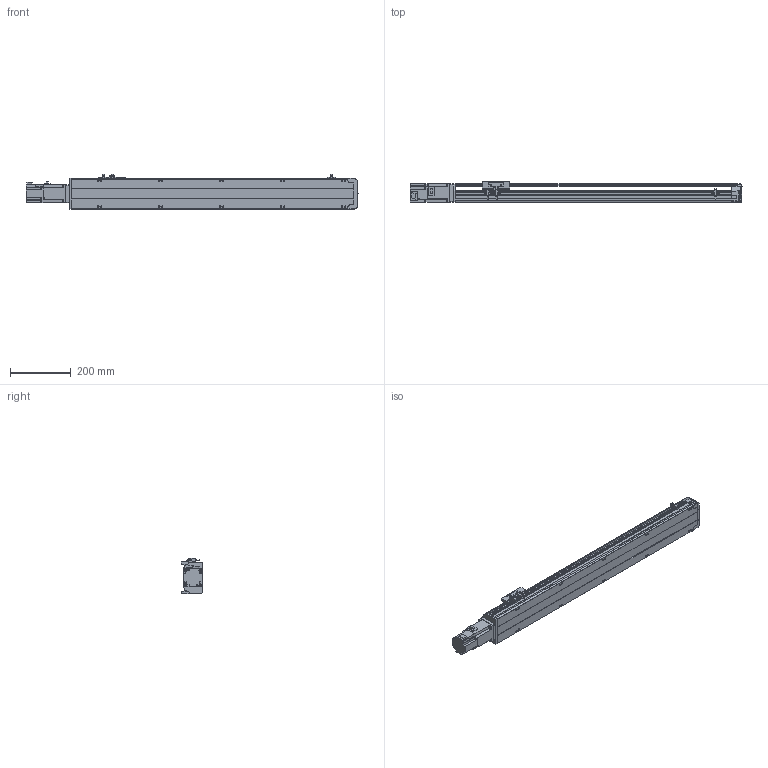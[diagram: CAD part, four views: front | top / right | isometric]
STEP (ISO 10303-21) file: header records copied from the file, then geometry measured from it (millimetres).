
FILE_DESCRIPTION(/* description */ ('STEP AP214'),/* implementation_level */ '2;1');
FILE_NAME(/* name */ 'PSS120-L10-S700-BC-T40-C1-N(0)',/* time_stamp */ '2022-06-02T02:33:21+02:00',/* author */ ('License CC BY-ND 4.0'),/* organization */ ('CADENAS'),/* preprocessor_version */ 'ST-DEVELOPER v18.102',/* originating_system */ 'PARTsolutions',/* authorisation */ ' ');
FILE_SCHEMA (('AUTOMOTIVE_DESIGN {1 0 10303 214 3 1 1}'));
Length unit declared in the file: millimetre
Products named in the file (8): PSS120-L10-S700-BC-T40-C1-N(0); PSS120-S700-BC-N_S; T40-p1; PSS120BC-N_h; PSS120-N_sensor; PSS120-BC-C1-N_sl; PSS120-N_Q; PSS120-S700-BC-C1-N_body
Assembly tree (9 placements, depth 2):
  PSS120-L10-S700-BC-T40-C1-N(0)
    PSS120-S700-BC-N_S
    T40-p1
    PSS120BC-N_h
    PSS120-N_sensor  x3
    PSS120-BC-C1-N_sl
    PSS120-N_Q
    PSS120-S700-BC-C1-N_body
Bounding box: 1088.7 x 70 x 117.7 mm (x, y, z)
Volume: 3494112.6 mm3; surface area: 626955 mm2
Topology: 9 solids, 9 shells, 817 faces, 2184 edges, 1448 vertices
Faces by surface type: plane 553, cylinder 242, cone 22
Full cylindrical faces by diameter (mm): 2.8 x3, 4 x4, 4.134 x14, 4.2 x4, 4.4 x2, 4.5 x4, 4.6 x3, 4.917 x4, 5 x6, 5.5 x17, 7 x2, 8 x8, 8.5 x14, 14 x1, 28 x1, 32 x1, 50 x1
Entity records: 21922 total; most frequent: CARTESIAN_POINT 3952, DIRECTION 3673, ORIENTED_EDGE 3550, EDGE_CURVE 1775, LINE 1243, VECTOR 1243, VERTEX_POINT 1238, AXIS2_PLACEMENT_3D 1215
